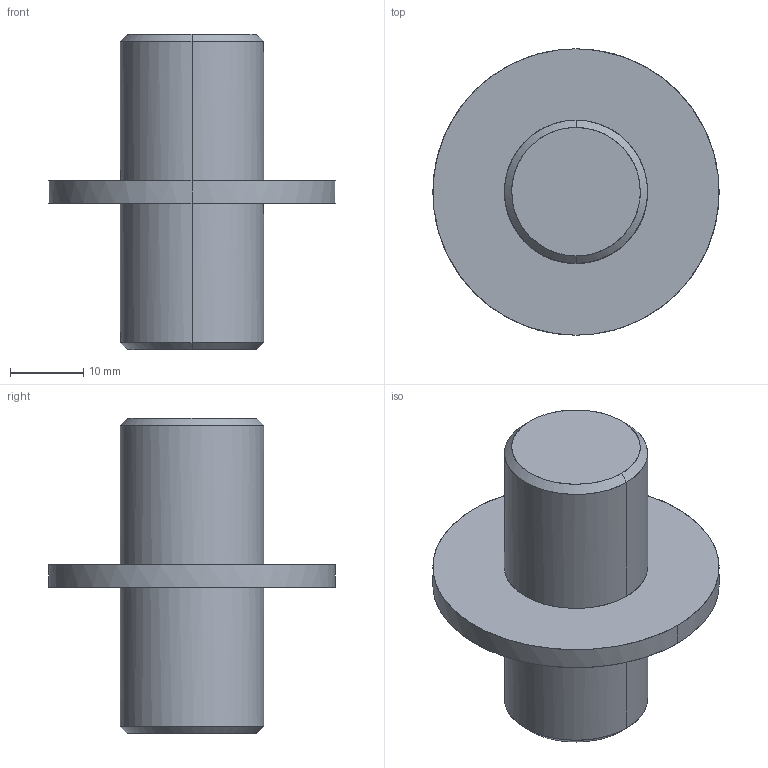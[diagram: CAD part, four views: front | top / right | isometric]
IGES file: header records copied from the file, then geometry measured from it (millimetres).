
Global section: file name: E:\UnigraphicsGraphicData\MISUMI_PRESS-PARTS\IGES\3d_sswc39_00828_r00.igs; native system: NX V5.0; preprocessor: UGS NX IGES V5.0; author: MISUMI; date: 20110105.163201; units: millimetre
Bounding box: 39 x 39 x 43 mm (x, y, z)
Surface area: 5132.9 mm2 (no closed solid volume)
Topology: 0 solids, 0 shells, 14 faces, 104 edges, 104 vertices
Faces by surface type: bspline 14
